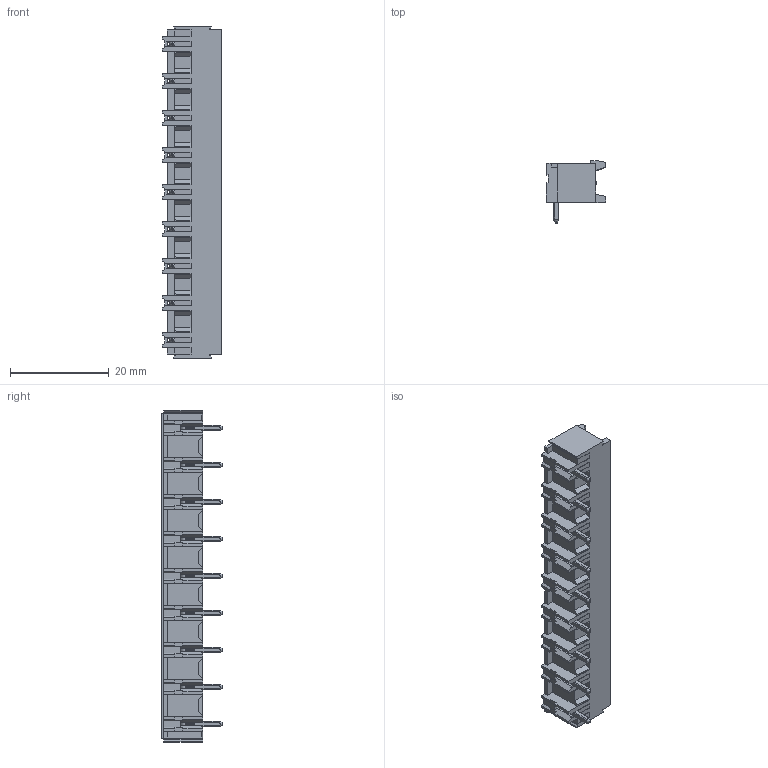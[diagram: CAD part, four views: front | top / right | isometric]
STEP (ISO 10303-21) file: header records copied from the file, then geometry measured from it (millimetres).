
FILE_DESCRIPTION (( 'STEP AP214' ), '1' );
FILE_NAME ('122-M-211-09.STEP', '2008-01-18T04:56:25', ( ' ' ), ( '' ), 'SwSTEP 2.0', 'SolidWorks 2007', '' );
FILE_SCHEMA (( 'AUTOMOTIVE_DESIGN' ));
Products named in the file (1): 122-M-211-09
Bounding box: 12 x 12.53 x 67.3 mm (x, y, z)
Volume: 2324.5 mm3; surface area: 5282.9 mm2
Topology: 1 solids, 1 shells, 1767 faces, 5390 edges, 3436 vertices
Faces by surface type: plane 1619, cone 90, cylinder 49, bspline 9
Entity records: 60226 total; most frequent: CARTESIAN_POINT 12268, ORIENTED_EDGE 10780, DIRECTION 8745, EDGE_CURVE 5390, VECTOR 4887, LINE 4887, VERTEX_POINT 3436, EDGE_LOOP 1938
